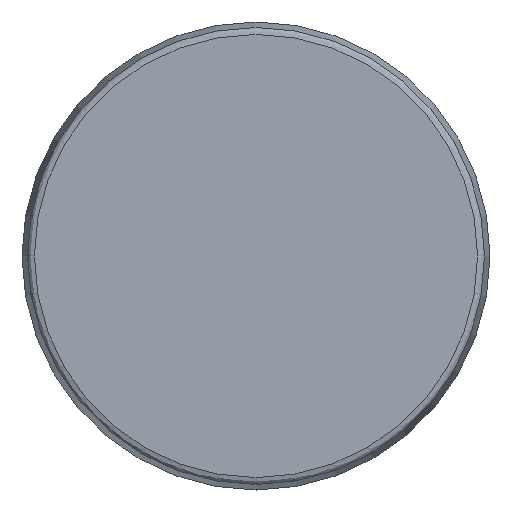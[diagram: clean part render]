
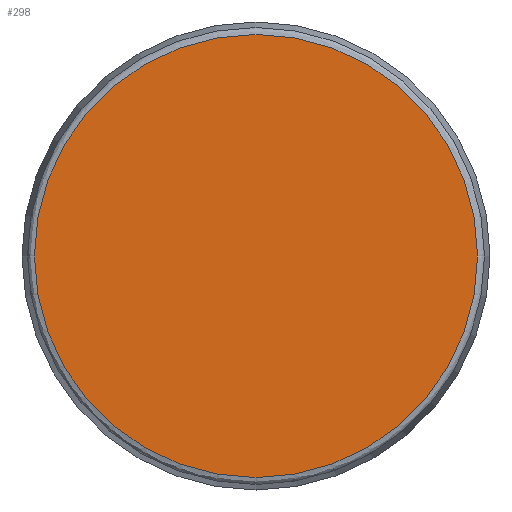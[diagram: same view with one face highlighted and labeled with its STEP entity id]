
A CAD part, left-side view. The second image highlights one B-rep face of the part: STEP entity #298.
In plain terms, the highlighted planar face has unit normal (-1, 0, 0).
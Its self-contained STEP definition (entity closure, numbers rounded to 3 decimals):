
#273=CARTESIAN_POINT('',(-459.319,-582.785,-116.799));
#274=DIRECTION('',(1.0,0.0,0.0));
#275=DIRECTION('',(0.0,1.0,0.0));
#276=AXIS2_PLACEMENT_3D('',#273,#274,#275);
#277=PLANE('',#276);
#278=CARTESIAN_POINT('',(-459.319,-488.109,25.216));
#279=VERTEX_POINT('',#278);
#280=CARTESIAN_POINT('',(-459.319,-488.109,-69.461));
#281=VERTEX_POINT('',#280);
#282=CARTESIAN_POINT('',(-459.319,-488.109,-22.122));
#283=DIRECTION('',(-1.0,0.0,0.0));
#284=DIRECTION('',(0.0,0.0,1.0));
#285=AXIS2_PLACEMENT_3D('',#282,#283,#284);
#286=CIRCLE('',#285,47.338);
#287=EDGE_CURVE('',#279,#281,#286,.T.);
#288=ORIENTED_EDGE('',*,*,#287,.T.);
#289=CARTESIAN_POINT('',(-459.319,-488.109,-22.122));
#290=DIRECTION('',(-1.0,0.0,0.0));
#291=DIRECTION('',(0.0,0.0,1.0));
#292=AXIS2_PLACEMENT_3D('',#289,#290,#291);
#293=CIRCLE('',#292,47.338);
#294=EDGE_CURVE('',#281,#279,#293,.T.);
#295=ORIENTED_EDGE('',*,*,#294,.T.);
#296=EDGE_LOOP('',(#288,#295));
#297=FACE_OUTER_BOUND('',#296,.T.);
#298=ADVANCED_FACE('',(#297),#277,.F.);
